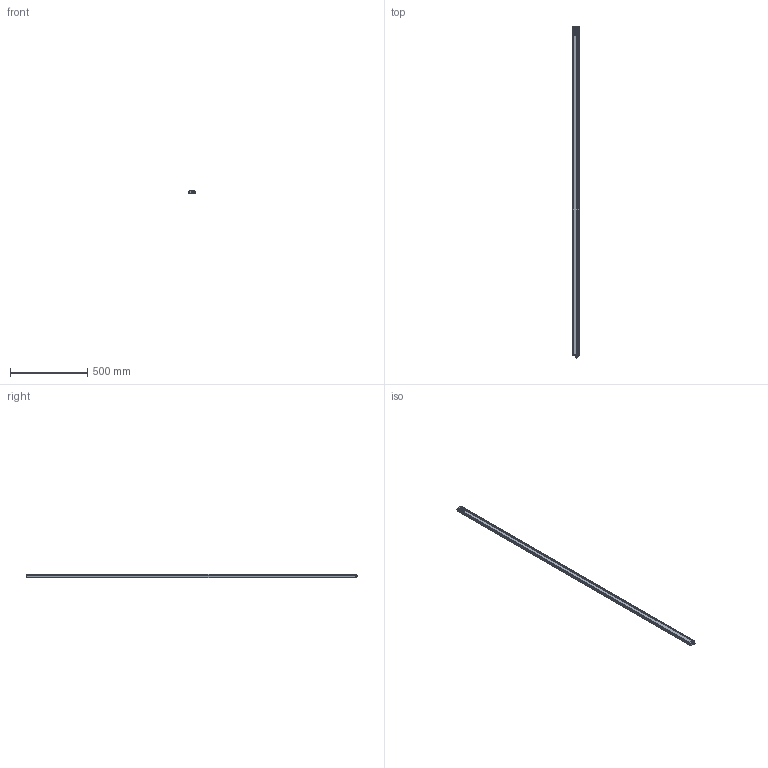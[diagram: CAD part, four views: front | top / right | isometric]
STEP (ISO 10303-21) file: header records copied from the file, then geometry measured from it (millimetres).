
FILE_DESCRIPTION(/* description */ (''),/* implementation_level */ '2;1');
FILE_NAME(/* name */ 'C:\Users\andre\SynologyDrive\Optoscan\Libreria Componenti\00 - Barriere\Polaris sorgente\Barriera Polaris RX\Polaris_2120_RX.stp',/* time_stamp */ '2021-06-04T12:04:12+02:00',/* author */ ('andre'),/* organization */ (''),/* preprocessor_version */ 'ST-DEVELOPER v18',/* originating_system */ 'Autodesk Inventor 2020',/* authorisation */ '');
FILE_SCHEMA (('AUTOMOTIVE_DESIGN { 1 0 10303 214 3 1 1 }'));
Length unit declared in the file: millimetre
Products named in the file (1): Polaris_2120_RX
Bounding box: 40.5 x 2145.3 x 20.75 mm (x, y, z)
Volume: 422324.8 mm3; surface area: 560666.8 mm2
Topology: 1 solids, 1 shells, 700 faces, 1926 edges, 1237 vertices
Faces by surface type: plane 319, cylinder 199, bspline 94, torus 70, sphere 10, cone 8
Full cylindrical faces by diameter (mm): 1 x8, 2.459 x4, 2.5 x4, 3 x4, 3.5 x4, 5.5 x4, 8 x1, 10.5 x2, 11.75 x9, 15.7 x1, 17.5 x1
Entity records: 28472 total; most frequent: CARTESIAN_POINT 10246, ORIENTED_EDGE 3826, DIRECTION 3447, EDGE_CURVE 1913, VERTEX_POINT 1237, AXIS2_PLACEMENT_3D 1211, LINE 1025, VECTOR 1025
